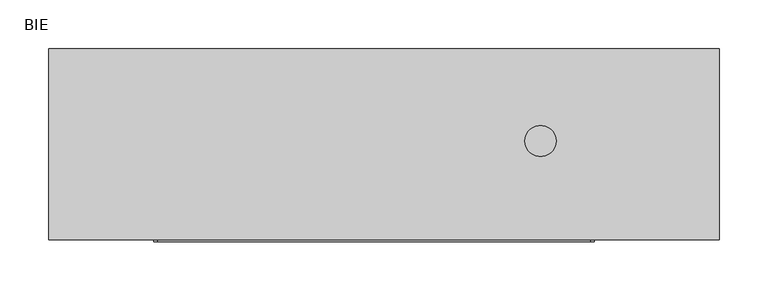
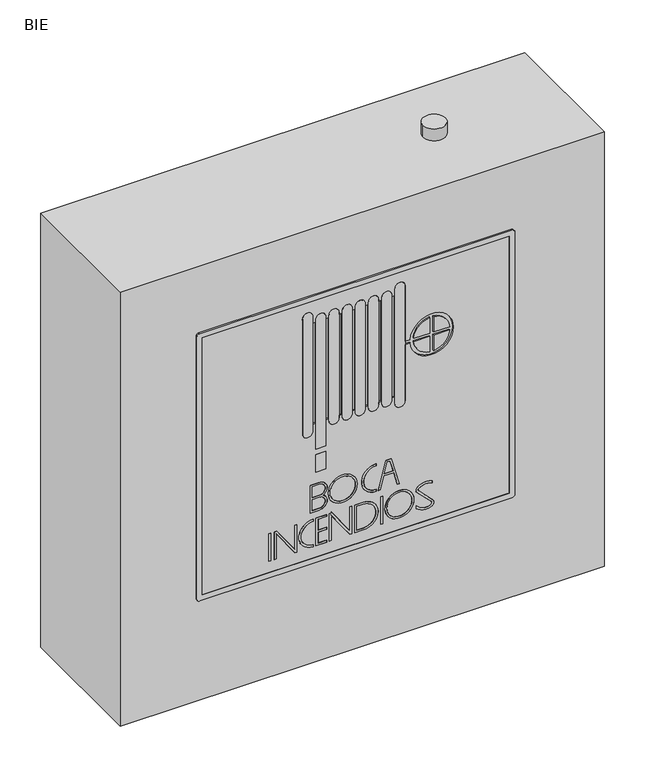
"""IFC4 building model written with IfcOpenShell, lengths in millimetres: proxy geometry, ZYR_12.01.03 BIE : BIE."""

from ifc_helpers import new_model, si_unit, point, frame, frame_2d, origin, place, context, project, spatial, polyline, circle_curve, trimmed, segment, composite_curve, outline, extrude, source, transform, mapped, element, save


def bie_1a3f8c17(model_context):
    return source(origin(), model_context, "Body", "SweptSolid", [
        extrude(outline(composite_curve([segment(polyline([(1550.2678612, 210.6585928), (1550.2678612, -231.3316125)]), True, "CONTINUOUS"), segment(trimmed(circle_curve(frame_2d((1546.2678612, -231.3316125)), 4.0), [point((1550.2678612, -231.3316125))], [point((1546.2678612, -235.3316125))], False, "CARTESIAN"), True, "CONTINUOUS"), segment(polyline([(1546.2678612, -235.3316125), (1154.0, -235.3316125)]), True, "CONTINUOUS"), segment(trimmed(circle_curve(frame_2d((1154.0, -231.3316125)), 4.0), [point((1154.0, -235.3316125))], [point((1150.0, -231.3316125))], False, "CARTESIAN"), True, "CONTINUOUS"), segment(polyline([(1150.0, -231.3316125), (1150.0, 210.6585928)]), True, "CONTINUOUS"), segment(trimmed(circle_curve(frame_2d((1154.0, 210.6585928)), 4.0), [point((1150.0, 210.6585928))], [point((1154.0, 214.6585928))], False, "CARTESIAN"), True, "CONTINUOUS"), segment(polyline([(1154.0, 214.6585928), (1546.2678612, 214.6585928)]), True, "CONTINUOUS"), segment(trimmed(circle_curve(frame_2d((1546.2678612, 210.6585928)), 4.0), [point((1546.2678612, 214.6585928))], [point((1550.2678612, 210.6585928))], False, "CARTESIAN"), True, "CONTINUOUS")], self_intersect=False), holes=[polyline([(1158.0, -227.3316125), (1542.2678612, -227.3316125), (1542.2678612, 206.6585928), (1158.0, 206.6585928), (1158.0, -227.3316125)])]), frame((0.0, -197.0, 0.0), z_axis=(0.0, 1.0, 0.0), x_axis=(0.0, 0.0, 1.0)), (0.0, 0.0, 1.0), 2.0),
        extrude(outline(composite_curve([segment(polyline([(1520.3049592, -85.6553464), (1348.1310462, -85.6553464)]), True, "CONTINUOUS"), segment(trimmed(circle_curve(frame_2d((1348.1310462, -78.4814333)), 7.173913), [point((1348.1310462, -85.6553464))], [point((1348.1310462, -71.3075203))], False, "CARTESIAN"), True, "CONTINUOUS"), segment(polyline([(1348.1310462, -71.3075203), (1520.3049592, -71.3075203)]), True, "CONTINUOUS"), segment(trimmed(circle_curve(frame_2d((1520.3049592, -78.4814333)), 7.173913), [point((1520.3049592, -71.3075203))], [point((1520.3049592, -85.6553464))], False, "CARTESIAN"), True, "CONTINUOUS")], self_intersect=False)), frame((0.0, -197.0, 0.0), z_axis=(0.0, 1.0, 0.0), x_axis=(0.0, 0.0, 1.0)), (0.0, 0.0, 1.0), 2.0),
        extrude(outline(composite_curve([segment(polyline([(1520.3049592, 45.0549224), (1348.1310462, 45.0549224)]), True, "CONTINUOUS"), segment(trimmed(circle_curve(frame_2d((1348.1310462, 52.2288354)), 7.173913), [point((1348.1310462, 45.0549224))], [point((1348.1310462, 59.4027485))], False, "CARTESIAN"), True, "CONTINUOUS"), segment(polyline([(1348.1310462, 59.4027485), (1520.3049592, 59.4027485)]), True, "CONTINUOUS"), segment(trimmed(circle_curve(frame_2d((1520.3049592, 52.2288354)), 7.173913), [point((1520.3049592, 59.4027485))], [point((1520.3049592, 45.0549224))], False, "CARTESIAN"), True, "CONTINUOUS")], self_intersect=False)), frame((0.0, -197.0, 0.0), z_axis=(0.0, 1.0, 0.0), x_axis=(0.0, 0.0, 1.0)), (0.0, 0.0, 1.0), 2.0),
        extrude(outline(composite_curve([segment(polyline([(1513.1310462, -67.0033717), (1319.435394, -67.0033717), (1319.435394, -52.6555457), (1513.1310462, -52.6555457)]), True, "CONTINUOUS"), segment(trimmed(circle_curve(frame_2d((1513.1310462, -59.8294587)), 7.173913), [point((1513.1310462, -52.6555457))], [point((1513.1310462, -67.0033717))], False, "CARTESIAN"), True, "CONTINUOUS")], self_intersect=False)), frame((0.0, -197.0, 0.0), z_axis=(0.0, 1.0, 0.0), x_axis=(0.0, 0.0, 1.0)), (0.0, 0.0, 1.0), 2.0),
        extrude(outline(composite_curve([segment(polyline([(1513.1310462, -48.3513971), (1355.3049592, -48.3513971)]), True, "CONTINUOUS"), segment(trimmed(circle_curve(frame_2d((1355.3049592, -41.1774841)), 7.173913), [point((1355.3049592, -48.3513971))], [point((1355.3049592, -34.003571))], False, "CARTESIAN"), True, "CONTINUOUS"), segment(polyline([(1355.3049592, -34.003571), (1513.1310462, -34.003571)]), True, "CONTINUOUS"), segment(trimmed(circle_curve(frame_2d((1513.1310462, -41.1774841)), 7.173913), [point((1513.1310462, -34.003571))], [point((1513.1310462, -48.3513971))], False, "CARTESIAN"), True, "CONTINUOUS")], self_intersect=False)), frame((0.0, -197.0, 0.0), z_axis=(0.0, 1.0, 0.0), x_axis=(0.0, 0.0, 1.0)), (0.0, 0.0, 1.0), 2.0),
        extrude(outline(composite_curve([segment(polyline([(1513.1310462, -29.6994224), (1355.3049592, -29.6994224)]), True, "CONTINUOUS"), segment(trimmed(circle_curve(frame_2d((1355.3049592, -22.5255094)), 7.173913), [point((1355.3049592, -29.6994224))], [point((1355.3049592, -15.3515964))], False, "CARTESIAN"), True, "CONTINUOUS"), segment(polyline([(1355.3049592, -15.3515964), (1513.1310462, -15.3515964)]), True, "CONTINUOUS"), segment(trimmed(circle_curve(frame_2d((1513.1310462, -22.5255094)), 7.173913), [point((1513.1310462, -15.3515964))], [point((1513.1310462, -29.6994224))], False, "CARTESIAN"), True, "CONTINUOUS")], self_intersect=False)), frame((0.0, -197.0, 0.0), z_axis=(0.0, 1.0, 0.0), x_axis=(0.0, 0.0, 1.0)), (0.0, 0.0, 1.0), 2.0),
        extrude(outline(composite_curve([segment(polyline([(1513.1310462, -11.0474478), (1355.3049592, -11.0474478)]), True, "CONTINUOUS"), segment(trimmed(circle_curve(frame_2d((1355.3049592, -3.8735348)), 7.173913), [point((1355.3049592, -11.0474478))], [point((1355.3049592, 3.3003783))], False, "CARTESIAN"), True, "CONTINUOUS"), segment(polyline([(1355.3049592, 3.3003783), (1513.1310462, 3.3003783)]), True, "CONTINUOUS"), segment(trimmed(circle_curve(frame_2d((1513.1310462, -3.8735348)), 7.173913), [point((1513.1310462, 3.3003783))], [point((1513.1310462, -11.0474478))], False, "CARTESIAN"), True, "CONTINUOUS")], self_intersect=False)), frame((0.0, -197.0, 0.0), z_axis=(0.0, 1.0, 0.0), x_axis=(0.0, 0.0, 1.0)), (0.0, 0.0, 1.0), 2.0),
        extrude(outline(composite_curve([segment(polyline([(1513.1310462, 7.6045268), (1355.3049592, 7.6045268)]), True, "CONTINUOUS"), segment(trimmed(circle_curve(frame_2d((1355.3049592, 14.7784399)), 7.173913), [point((1355.3049592, 7.6045268))], [point((1355.3049592, 21.9523529))], False, "CARTESIAN"), True, "CONTINUOUS"), segment(polyline([(1355.3049592, 21.9523529), (1513.1310462, 21.9523529)]), True, "CONTINUOUS"), segment(trimmed(circle_curve(frame_2d((1513.1310462, 14.7784399)), 7.173913), [point((1513.1310462, 21.9523529))], [point((1513.1310462, 7.6045268))], False, "CARTESIAN"), True, "CONTINUOUS")], self_intersect=False)), frame((0.0, -197.0, 0.0), z_axis=(0.0, 1.0, 0.0), x_axis=(0.0, 0.0, 1.0)), (0.0, 0.0, 1.0), 2.0),
        extrude(outline(polyline([(-52.6555457, -197.0), (-67.0033717, -197.0), (-67.0033717, -195.0), (-52.6555457, -195.0), (-52.6555457, -197.0)])), frame((0.0, 0.0, 1285.2064172), z_axis=(0.0, 0.0, 1.0), x_axis=(1.0, 0.0, 0.0)), (0.0, 0.0, 1.0), 26.1646963),
        extrude(outline(composite_curve([segment(polyline([(1267.8806708, -74.833742), (1226.7079846, -74.833742), (1226.7079846, -61.9209267)]), True, "CONTINUOUS"), segment(trimmed(circle_curve(frame_2d((1237.6860589, -61.9209267)), 10.9780742), [point((1226.7079846, -61.9209267))], [point((1247.2943277, -56.6106269))], False, "CARTESIAN"), True, "CONTINUOUS"), segment(trimmed(circle_curve(frame_2d((1256.9025965, -61.9209267)), 10.9780742), [point((1247.2943277, -56.6106269))], [point((1267.8806708, -61.9209267))], False, "CARTESIAN"), True, "CONTINUOUS"), segment(polyline([(1267.8806708, -61.9209267), (1267.8806708, -74.833742)]), True, "CONTINUOUS")], self_intersect=False), holes=[composite_curve([segment(polyline([(1248.7339321, -71.9545332), (1265.0712609, -71.9545332), (1265.0712609, -61.9209267)]), True, "CONTINUOUS"), segment(trimmed(circle_curve(frame_2d((1256.9025965, -61.9209267)), 8.1686644), [point((1265.0712609, -61.9209267))], [point((1248.7339321, -61.9209267))], True, "CARTESIAN"), True, "CONTINUOUS"), segment(polyline([(1248.7339321, -61.9209267), (1248.7339321, -71.9545332)]), True, "CONTINUOUS")], self_intersect=False), composite_curve([segment(polyline([(1229.5173945, -61.9209267), (1229.5173945, -71.9545332), (1245.8547233, -71.9545332), (1245.8547233, -61.9209267)]), True, "CONTINUOUS"), segment(trimmed(circle_curve(frame_2d((1237.6860589, -61.9209267)), 8.1686644), [point((1245.8547233, -61.9209267))], [point((1229.5173945, -61.9209267))], True, "CARTESIAN"), True, "CONTINUOUS")], self_intersect=False)]), frame((0.0, -197.0, 0.0), z_axis=(0.0, 1.0, 0.0), x_axis=(0.0, 0.0, 1.0)), (0.0, 0.0, 1.0), 2.0),
        extrude(outline(composite_curve([segment(trimmed(circle_curve(frame_2d((1247.2943277, -28.8100253)), 20.5863431), [point((1247.2943277, -49.3963683))], [point((1247.2943277, -8.2236822))], False, "CARTESIAN"), True, "CONTINUOUS"), segment(trimmed(circle_curve(frame_2d((1247.2943277, -28.8100253)), 20.5863431), [point((1247.2943277, -8.2236822))], [point((1247.2943277, -49.3963683))], False, "CARTESIAN"), True, "CONTINUOUS")], self_intersect=False), holes=[composite_curve([segment(trimmed(circle_curve(frame_2d((1247.2943277, -28.8100253)), 17.7769332), [point((1247.2943277, -46.5869585))], [point((1247.2943277, -11.033092))], True, "CARTESIAN"), True, "CONTINUOUS"), segment(trimmed(circle_curve(frame_2d((1247.2943277, -28.8100253)), 17.7769332), [point((1247.2943277, -11.033092))], [point((1247.2943277, -46.5869585))], True, "CARTESIAN"), True, "CONTINUOUS")], self_intersect=False)]), frame((0.0, -197.0, 0.0), z_axis=(0.0, 1.0, 0.0), x_axis=(0.0, 0.0, 1.0)), (0.0, 0.0, 1.0), 2.0),
        extrude(outline(composite_curve([segment(polyline([(1226.7079846, 18.3479252), (1229.5173945, 18.3479252)]), True, "CONTINUOUS"), segment(trimmed(circle_curve(frame_2d((1247.2943277, 18.3479252)), 17.7769332), [point((1229.5173945, 18.3479252))], [point((1265.0712609, 18.3479252))], True, "CARTESIAN"), True, "CONTINUOUS"), segment(polyline([(1265.0712609, 18.3479252), (1267.8806708, 18.3479252)]), True, "CONTINUOUS"), segment(trimmed(circle_curve(frame_2d((1247.2943277, 18.3479252)), 20.5863431), [point((1267.8806708, 18.3479252))], [point((1226.7079846, 18.3479252))], False, "CARTESIAN"), True, "CONTINUOUS")], self_intersect=False)), frame((0.0, -197.0, 0.0), z_axis=(0.0, 1.0, 0.0), x_axis=(0.0, 0.0, 1.0)), (0.0, 0.0, 1.0), 2.0),
        extrude(outline(polyline([(1267.8806708, 32.3925847), (1226.7079846, 21.3603967), (1226.7079846, 24.2689118), (1245.8896228, 29.4086163), (1245.8896228, 43.1525983), (1226.7079846, 48.2923027), (1226.7079846, 51.2008178), (1267.8806708, 40.1686298), (1267.8806708, 32.3925847)]), holes=[polyline([(1265.0712609, 38.0128938), (1248.6990326, 42.3998192), (1248.6990326, 30.1613954), (1265.0712609, 34.5483207), (1265.0712609, 38.0128938)])]), frame((0.0, -197.0, 0.0), z_axis=(0.0, 1.0, 0.0), x_axis=(0.0, 0.0, 1.0)), (0.0, 0.0, 1.0), 2.0),
        extrude(outline(polyline([(-130.6511312, -197.0), (-133.53034, -197.0), (-133.53034, -195.0), (-130.6511312, -195.0), (-130.6511312, -197.0)])), frame((0.0, 0.0, 1174.9694614), z_axis=(0.0, 0.0, 1.0), x_axis=(1.0, 0.0, 0.0)), (0.0, 0.0, 1.0), 41.1726861),
        extrude(outline(polyline([(1216.1421475, -126.0051351), (1174.9694614, -126.0051351), (1174.9694614, -123.1259263), (1212.4841752, -123.1259263), (1174.9694614, -96.8578409), (1174.9694614, -94.0284675), (1216.1421475, -94.0284675), (1216.1421475, -96.9076763), (1180.0603811, -96.9076763), (1216.1421475, -122.1724011), (1216.1421475, -126.0051351)])), frame((0.0, -197.0, 0.0), z_axis=(0.0, 1.0, 0.0), x_axis=(0.0, 0.0, 1.0)), (0.0, 0.0, 1.0), 2.0),
        extrude(outline(composite_curve([segment(polyline([(1174.9694614, -70.3591379), (1177.7788712, -70.3591379)]), True, "CONTINUOUS"), segment(trimmed(circle_curve(frame_2d((1195.5558044, -70.3591379)), 17.7769332), [point((1177.7788712, -70.3591379))], [point((1213.3327377, -70.3591379))], True, "CARTESIAN"), True, "CONTINUOUS"), segment(polyline([(1213.3327377, -70.3591379), (1216.1421475, -70.3591379)]), True, "CONTINUOUS"), segment(trimmed(circle_curve(frame_2d((1195.5558044, -70.3591379)), 20.5863431), [point((1216.1421475, -70.3591379))], [point((1174.9694614, -70.3591379))], False, "CARTESIAN"), True, "CONTINUOUS")], self_intersect=False)), frame((0.0, -197.0, 0.0), z_axis=(0.0, 1.0, 0.0), x_axis=(0.0, 0.0, 1.0)), (0.0, 0.0, 1.0), 2.0),
        extrude(outline(polyline([(1216.4697626, -66.7010697), (1175.2970765, -66.7010697), (1175.2970765, -51.7815331), (1178.1064863, -51.7815331), (1178.1064863, -63.8218609), (1194.4438151, -63.8218609), (1194.4438151, -51.7815331), (1197.323024, -51.7815331), (1197.323024, -63.8218609), (1213.6603528, -63.8218609), (1213.6603528, -51.7815331), (1216.4697626, -51.7815331), (1216.4697626, -66.7010697)])), frame((0.0, -197.0, 0.0), z_axis=(0.0, 1.0, 0.0), x_axis=(0.0, 0.0, 1.0)), (0.0, 0.0, 1.0), 2.0),
        extrude(outline(polyline([(1216.4697626, -47.7430045), (1175.2970765, -47.7430045), (1175.2970765, -44.8637957), (1212.4841752, -44.8637957), (1175.2970765, -18.8251088), (1175.2970765, -15.7663368), (1216.4697626, -15.7663368), (1216.4697626, -18.6455457), (1180.0603811, -18.6455457), (1216.4697626, -44.139669), (1216.4697626, -47.7430045)])), frame((0.0, -197.0, 0.0), z_axis=(0.0, 1.0, 0.0), x_axis=(0.0, 0.0, 1.0)), (0.0, 0.0, 1.0), 2.0),
        extrude(outline(composite_curve([segment(polyline([(1216.4697626, -11.9120801), (1175.2970765, -11.9120801), (1175.2970765, 0.5391364)]), True, "CONTINUOUS"), segment(trimmed(circle_curve(frame_2d((1195.8834195, 0.5391364)), 20.5863431), [point((1175.2970765, 0.5391364))], [point((1216.4697626, 0.5391364))], False, "CARTESIAN"), True, "CONTINUOUS"), segment(polyline([(1216.4697626, 0.5391364), (1216.4697626, -11.9120801)]), True, "CONTINUOUS")], self_intersect=False), holes=[composite_curve([segment(polyline([(1178.1064863, -9.0328713), (1213.6603528, -9.0328713), (1213.6603528, 0.1756746)]), True, "CONTINUOUS"), segment(trimmed(circle_curve(frame_2d((1195.8834195, 0.1756746)), 17.7769332), [point((1213.6603528, 0.1756746))], [point((1178.1064863, 0.1756746))], True, "CARTESIAN"), True, "CONTINUOUS"), segment(polyline([(1178.1064863, 0.1756746), (1178.1064863, -9.0328713)]), True, "CONTINUOUS")], self_intersect=False)]), frame((0.0, -197.0, 0.0), z_axis=(0.0, 1.0, 0.0), x_axis=(0.0, 0.0, 1.0)), (0.0, 0.0, 1.0), 2.0),
        extrude(outline(composite_curve([segment(trimmed(circle_curve(frame_2d((1195.8834195, 51.2996408)), 20.5863431), [point((1195.8834195, 30.7132977))], [point((1195.8834195, 71.8859838))], False, "CARTESIAN"), True, "CONTINUOUS"), segment(trimmed(circle_curve(frame_2d((1195.8834195, 51.2996408)), 20.5863431), [point((1195.8834195, 71.8859838))], [point((1195.8834195, 30.7132977))], False, "CARTESIAN"), True, "CONTINUOUS")], self_intersect=False), holes=[composite_curve([segment(trimmed(circle_curve(frame_2d((1195.8834195, 51.2996408)), 17.7769332), [point((1195.8834195, 33.5227075))], [point((1195.8834195, 69.076574))], True, "CARTESIAN"), True, "CONTINUOUS"), segment(trimmed(circle_curve(frame_2d((1195.8834195, 51.2996408)), 17.7769332), [point((1195.8834195, 69.076574))], [point((1195.8834195, 33.5227075))], True, "CARTESIAN"), True, "CONTINUOUS")], self_intersect=False)]), frame((0.0, -197.0, 0.0), z_axis=(0.0, 1.0, 0.0), x_axis=(0.0, 0.0, 1.0)), (0.0, 0.0, 1.0), 2.0),
        extrude(outline(polyline([(27.8798514, -197.0), (25.0006426, -197.0), (25.0006426, -195.0), (27.8798514, -195.0), (27.8798514, -197.0)])), frame((0.0, 0.0, 1174.9694614), z_axis=(0.0, 0.0, 1.0), x_axis=(1.0, 0.0, 0.0)), (0.0, 0.0, 1.0), 41.1726861),
        extrude(outline(composite_curve([segment(trimmed(circle_curve(frame_2d((1195.8834195, 89.4273454)), 17.7769332), [point((1209.9165529, 78.514485))], [point((1211.6473698, 97.6442321))], True, "CARTESIAN"), True, "CONTINUOUS"), segment(polyline([(1211.6473698, 97.6442321), (1214.7588081, 97.6442321)]), True, "CONTINUOUS"), segment(trimmed(circle_curve(frame_2d((1195.8834195, 89.4273454)), 20.5863431), [point((1214.7588081, 97.6442321))], [point((1211.9500805, 76.5564509))], False, "CARTESIAN"), True, "CONTINUOUS"), segment(trimmed(circle_curve(frame_2d((1208.0998015, 80.8216275)), 5.7459881), [point((1211.9500805, 76.5564509))], [point((1204.3945803, 76.4298494))], False, "CARTESIAN"), True, "CONTINUOUS"), segment(polyline([(1204.3945803, 76.4298494), (1184.4167616, 96.4076681)]), True, "CONTINUOUS"), segment(trimmed(circle_curve(frame_2d((1182.2554389, 93.6372106)), 3.5137943), [point((1184.4167616, 96.4076681))], [point((1178.9128445, 94.7206373))], True, "CARTESIAN"), True, "CONTINUOUS"), segment(trimmed(circle_curve(frame_2d((1195.8834195, 89.4273454)), 17.7769332), [point((1178.9128445, 94.7206373))], [point((1185.0673732, 75.3194576))], True, "CARTESIAN"), True, "CONTINUOUS"), segment(polyline([(1185.0673732, 75.3194576), (1180.8912542, 75.3194576)]), True, "CONTINUOUS"), segment(trimmed(circle_curve(frame_2d((1195.8834195, 89.4273454)), 20.5863431), [point((1180.8912542, 75.3194576))], [point((1176.2350049, 95.5704166))], False, "CARTESIAN"), True, "CONTINUOUS"), segment(trimmed(circle_curve(frame_2d((1182.2554389, 93.6372106)), 6.3232041), [point((1176.2350049, 95.5704166))], [point((1186.2989708, 98.4985643))], False, "CARTESIAN"), True, "CONTINUOUS"), segment(polyline([(1186.2989708, 98.4985643), (1206.2830501, 78.514485)]), True, "CONTINUOUS"), segment(trimmed(circle_curve(frame_2d((1208.0998015, 80.8216275)), 2.9365783), [point((1206.2830501, 78.514485))], [point((1209.9165529, 78.514485))], True, "CARTESIAN"), True, "CONTINUOUS")], self_intersect=False)), frame((0.0, -197.0, 0.0), z_axis=(0.0, 1.0, 0.0), x_axis=(0.0, 0.0, 1.0)), (0.0, 0.0, 1.0), 2.0),
        extrude(outline(composite_curve([segment(polyline([(1513.1310462, 26.2565015), (1355.3049592, 26.2565015)]), True, "CONTINUOUS"), segment(trimmed(circle_curve(frame_2d((1355.3049592, 33.4304145)), 7.173913), [point((1355.3049592, 26.2565015))], [point((1355.3049592, 40.6043276))], False, "CARTESIAN"), True, "CONTINUOUS"), segment(polyline([(1355.3049592, 40.6043276), (1513.1310462, 40.6043276)]), True, "CONTINUOUS"), segment(trimmed(circle_curve(frame_2d((1513.1310462, 33.4304145)), 7.173913), [point((1513.1310462, 40.6043276))], [point((1513.1310462, 26.2565015))], False, "CARTESIAN"), True, "CONTINUOUS")], self_intersect=False)), frame((0.0, -197.0, 0.0), z_axis=(0.0, 1.0, 0.0), x_axis=(0.0, 0.0, 1.0)), (0.0, 0.0, 1.0), 2.0),
        extrude(outline(polyline([(1158.0, -227.3316125), (1158.0, 206.6585928), (1542.2678612, 206.6585928), (1542.2678612, -227.3316125), (1158.0, -227.3316125)]), holes=[composite_curve([segment(polyline([(1358.7146328, -29.6994224), (1358.7146328, -34.003571), (1355.4225503, -34.003571)]), True, "CONTINUOUS"), segment(trimmed(circle_curve(frame_2d((1355.4225503, -41.1774841)), 7.173913), [point((1355.4225503, -34.003571))], [point((1355.4225503, -48.3513971))], True, "CARTESIAN"), True, "CONTINUOUS"), segment(polyline([(1355.4225503, -48.3513971), (1358.7146328, -48.3513971), (1358.7146328, -52.6555457), (1319.435394, -52.6555457), (1319.435394, -67.0033717), (1358.7146328, -67.0033717), (1358.7146328, -71.3075203), (1348.1310462, -71.3075203)]), True, "CONTINUOUS"), segment(trimmed(circle_curve(frame_2d((1348.1310462, -78.4814333)), 7.173913), [point((1348.1310462, -71.3075203))], [point((1348.1310462, -85.6553464))], True, "CARTESIAN"), True, "CONTINUOUS"), segment(polyline([(1348.1310462, -85.6553464), (1518.1436223, -85.6553464)]), True, "CONTINUOUS"), segment(trimmed(circle_curve(frame_2d((1520.3787609, -78.8385154)), 7.173913), [point((1518.1436223, -85.6553464))], [point((1520.3787609, -71.6646024))], True, "CARTESIAN"), True, "CONTINUOUS"), segment(polyline([(1520.3787609, -71.6646024), (1509.8389636, -71.6646024), (1509.8389636, -67.0033717), (1513.2486373, -67.0033717)]), True, "CONTINUOUS"), segment(trimmed(circle_curve(frame_2d((1513.2486373, -59.8294587)), 7.173913), [point((1513.2486373, -67.0033717))], [point((1513.2486373, -52.6555457))], True, "CARTESIAN"), True, "CONTINUOUS"), segment(polyline([(1513.2486373, -52.6555457), (1509.8389636, -52.6555457), (1509.8389636, -48.3513971), (1513.2486373, -48.3513971)]), True, "CONTINUOUS"), segment(trimmed(circle_curve(frame_2d((1513.2486373, -41.1774841)), 7.173913), [point((1513.2486373, -48.3513971))], [point((1513.2486373, -34.003571))], True, "CARTESIAN"), True, "CONTINUOUS"), segment(polyline([(1513.2486373, -34.003571), (1509.8389636, -34.003571), (1509.8389636, -29.6994224), (1513.1310462, -29.6994224)]), True, "CONTINUOUS"), segment(trimmed(circle_curve(frame_2d((1513.1310462, -22.5255094)), 7.173913), [point((1513.1310462, -29.6994224))], [point((1513.1310462, -15.3515964))], True, "CARTESIAN"), True, "CONTINUOUS"), segment(polyline([(1513.1310462, -15.3515964), (1509.8389636, -15.3515964), (1509.8389636, -11.0474478), (1513.2486373, -11.0474478)]), True, "CONTINUOUS"), segment(trimmed(circle_curve(frame_2d((1513.2486373, -3.8735348)), 7.173913), [point((1513.2486373, -11.0474478))], [point((1513.2486373, 3.3003783))], True, "CARTESIAN"), True, "CONTINUOUS"), segment(polyline([(1513.2486373, 3.3003783), (1509.8389636, 3.3003783), (1509.8389636, 7.6045268), (1513.2486373, 7.6045268)]), True, "CONTINUOUS"), segment(trimmed(circle_curve(frame_2d((1513.2486373, 14.7784399)), 7.173913), [point((1513.2486373, 7.6045268))], [point((1513.2486373, 21.9523529))], True, "CARTESIAN"), True, "CONTINUOUS"), segment(polyline([(1513.2486373, 21.9523529), (1509.8389636, 21.9523529), (1509.8389636, 26.2565015), (1513.1310462, 26.2565015)]), True, "CONTINUOUS"), segment(trimmed(circle_curve(frame_2d((1513.1310462, 33.4304145)), 7.173913), [point((1513.1310462, 26.2565015))], [point((1513.1310462, 40.6043276))], True, "CARTESIAN"), True, "CONTINUOUS"), segment(polyline([(1513.1310462, 40.6043276), (1509.8389636, 40.6043276), (1509.8389636, 45.0549224), (1520.3787609, 45.0549224)]), True, "CONTINUOUS"), segment(trimmed(circle_curve(frame_2d((1520.3787609, 52.2288354)), 7.173913), [point((1520.3787609, 45.0549224))], [point((1520.3787609, 59.4027485))], True, "CARTESIAN"), True, "CONTINUOUS"), segment(polyline([(1520.3787609, 59.4027485), (1436.8767982, 59.4027485), (1436.8767982, 66.6453916)]), True, "CONTINUOUS"), segment(trimmed(circle_curve(frame_2d((1434.3267982, 97.1389564)), 30.6), [point((1436.8767982, 66.6453916))], [point((1431.7767982, 66.6453916))], True, "CARTESIAN"), True, "CONTINUOUS"), segment(polyline([(1431.7767982, 66.6453916), (1431.7767982, 59.4027485), (1348.1748356, 59.4027485)]), True, "CONTINUOUS"), segment(trimmed(circle_curve(frame_2d((1348.1748356, 52.2288354)), 7.173913), [point((1348.1748356, 59.4027485))], [point((1348.1748356, 45.0549224))], True, "CARTESIAN"), True, "CONTINUOUS"), segment(polyline([(1348.1748356, 45.0549224), (1358.7146328, 45.0549224), (1358.7146328, 40.6043276), (1355.3049592, 40.6043276)]), True, "CONTINUOUS"), segment(trimmed(circle_curve(frame_2d((1355.3049592, 33.4304145)), 7.173913), [point((1355.3049592, 40.6043276))], [point((1355.3049592, 26.2565015))], True, "CARTESIAN"), True, "CONTINUOUS"), segment(polyline([(1355.3049592, 26.2565015), (1358.7146328, 26.2565015), (1358.7146328, 21.9523529), (1355.4225503, 21.9523529)]), True, "CONTINUOUS"), segment(trimmed(circle_curve(frame_2d((1355.4225503, 14.7784399)), 7.173913), [point((1355.4225503, 21.9523529))], [point((1355.4225503, 7.6045268))], True, "CARTESIAN"), True, "CONTINUOUS"), segment(polyline([(1355.4225503, 7.6045268), (1358.7146328, 7.6045268), (1358.7146328, 3.3003783), (1355.3049592, 3.3003783)]), True, "CONTINUOUS"), segment(trimmed(circle_curve(frame_2d((1355.3049592, -3.8735348)), 7.173913), [point((1355.3049592, 3.3003783))], [point((1355.3049592, -11.0474478))], True, "CARTESIAN"), True, "CONTINUOUS"), segment(polyline([(1355.3049592, -11.0474478), (1358.7146328, -11.0474478), (1358.7146328, -15.3515964), (1355.3049592, -15.3515964)]), True, "CONTINUOUS"), segment(trimmed(circle_curve(frame_2d((1355.3049592, -22.5255094)), 7.173913), [point((1355.3049592, -15.3515964))], [point((1355.3049592, -29.6994224))], True, "CARTESIAN"), True, "CONTINUOUS"), segment(polyline([(1355.3049592, -29.6994224), (1358.7146328, -29.6994224)]), True, "CONTINUOUS")], self_intersect=False), polyline([(1285.2064172, -67.0033717), (1311.3711134, -67.0033717), (1311.3711134, -52.6555457), (1285.2064172, -52.6555457), (1285.2064172, -67.0033717)]), polyline([(1267.8806708, 40.1686298), (1226.7079846, 51.2008178), (1226.7079846, 48.2923027), (1245.8896228, 43.1525983), (1245.8896228, 29.4086163), (1226.7079846, 24.2689118), (1226.7079846, 21.3603967), (1267.8806708, 32.3925847), (1267.8806708, 40.1686298)]), polyline([(1216.1421475, 27.8798514), (1174.9694614, 27.8798514), (1174.9694614, 25.0006426), (1216.1421475, 25.0006426), (1216.1421475, 27.8798514)]), composite_curve([segment(trimmed(circle_curve(frame_2d((1247.2943277, 18.3479252)), 20.5863431), [point((1226.7079846, 18.3479252))], [point((1267.8806708, 18.3479252))], True, "CARTESIAN"), True, "CONTINUOUS"), segment(polyline([(1267.8806708, 18.3479252), (1265.0712609, 18.3479252)]), True, "CONTINUOUS"), segment(trimmed(circle_curve(frame_2d((1247.2943277, 18.3479252)), 17.7769332), [point((1265.0712609, 18.3479252))], [point((1229.5173945, 18.3479252))], False, "CARTESIAN"), True, "CONTINUOUS"), segment(polyline([(1229.5173945, 18.3479252), (1226.7079846, 18.3479252)]), True, "CONTINUOUS")], self_intersect=False), polyline([(1216.1421475, -130.6511312), (1174.9694614, -130.6511312), (1174.9694614, -133.53034), (1216.1421475, -133.53034), (1216.1421475, -130.6511312)]), polyline([(1174.9694614, -126.0051351), (1216.1421475, -126.0051351), (1216.1421475, -122.1724011), (1180.0603811, -96.9076763), (1216.1421475, -96.9076763), (1216.1421475, -94.0284675), (1174.9694614, -94.0284675), (1174.9694614, -96.8578409), (1212.4841752, -123.1259263), (1174.9694614, -123.1259263), (1174.9694614, -126.0051351)]), polyline([(1197.323024, -63.8218609), (1197.323024, -51.7815331), (1194.4438151, -51.7815331), (1194.4438151, -63.8218609), (1178.1064863, -63.8218609), (1178.1064863, -51.7815331), (1175.2970765, -51.7815331), (1175.2970765, -66.7010697), (1216.4697626, -66.7010697), (1216.4697626, -51.7815331), (1213.6603528, -51.7815331), (1213.6603528, -63.8218609), (1197.323024, -63.8218609)]), polyline([(1175.2970765, -47.7430045), (1216.4697626, -47.7430045), (1216.4697626, -44.139669), (1180.0603811, -18.6455457), (1216.4697626, -18.6455457), (1216.4697626, -15.7663368), (1175.2970765, -15.7663368), (1175.2970765, -18.8251088), (1212.4841752, -44.8637957), (1175.2970765, -44.8637957), (1175.2970765, -47.7430045)]), composite_curve([segment(trimmed(circle_curve(frame_2d((1247.2943277, -28.8100253)), 20.5863431), [point((1247.2943277, -49.3963683))], [point((1247.2943277, -8.2236822))], True, "CARTESIAN"), True, "CONTINUOUS"), segment(trimmed(circle_curve(frame_2d((1247.2943277, -28.8100253)), 20.5863431), [point((1247.2943277, -8.2236822))], [point((1247.2943277, -49.3963683))], True, "CARTESIAN"), True, "CONTINUOUS")], self_intersect=False), composite_curve([segment(trimmed(circle_curve(frame_2d((1195.8834195, 51.2996408)), 20.5863431), [point((1195.8834195, 30.7132977))], [point((1195.8834195, 71.8859838))], True, "CARTESIAN"), True, "CONTINUOUS"), segment(trimmed(circle_curve(frame_2d((1195.8834195, 51.2996408)), 20.5863431), [point((1195.8834195, 71.8859838))], [point((1195.8834195, 30.7132977))], True, "CARTESIAN"), True, "CONTINUOUS")], self_intersect=False), composite_curve([segment(trimmed(circle_curve(frame_2d((1195.5558044, -70.3591379)), 20.5863431), [point((1174.9694614, -70.3591379))], [point((1216.1421475, -70.3591379))], True, "CARTESIAN"), True, "CONTINUOUS"), segment(polyline([(1216.1421475, -70.3591379), (1213.3327377, -70.3591379)]), True, "CONTINUOUS"), segment(trimmed(circle_curve(frame_2d((1195.5558044, -70.3591379)), 17.7769332), [point((1213.3327377, -70.3591379))], [point((1177.7788712, -70.3591379))], False, "CARTESIAN"), True, "CONTINUOUS"), segment(polyline([(1177.7788712, -70.3591379), (1174.9694614, -70.3591379)]), True, "CONTINUOUS")], self_intersect=False), composite_curve([segment(polyline([(1175.2970765, -11.9120801), (1216.4697626, -11.9120801), (1216.4697626, 0.5391364)]), True, "CONTINUOUS"), segment(trimmed(circle_curve(frame_2d((1195.8834195, 0.5391364)), 20.5863431), [point((1216.4697626, 0.5391364))], [point((1175.2970765, 0.5391364))], True, "CARTESIAN"), True, "CONTINUOUS"), segment(polyline([(1175.2970765, 0.5391364), (1175.2970765, -11.9120801)]), True, "CONTINUOUS")], self_intersect=False), composite_curve([segment(polyline([(1226.7079846, -74.833742), (1267.8806708, -74.833742), (1267.8806708, -62.1267209)]), True, "CONTINUOUS"), segment(trimmed(circle_curve(frame_2d((1256.9032307, -61.9223989)), 10.9793414), [point((1267.8806708, -62.1267209))], [point((1247.2943277, -56.6106269))], True, "CARTESIAN"), True, "CONTINUOUS"), segment(trimmed(circle_curve(frame_2d((1237.6853516, -61.9221258)), 10.9792734), [point((1247.2943277, -56.6106269))], [point((1226.7079846, -62.1267209))], True, "CARTESIAN"), True, "CONTINUOUS"), segment(polyline([(1226.7079846, -62.1267209), (1226.7079846, -74.833742)]), True, "CONTINUOUS")], self_intersect=False), composite_curve([segment(trimmed(circle_curve(frame_2d((1182.2391413, 93.6932251)), 6.2907473), [point((1186.2989708, 98.4985643))], [point((1176.2350049, 95.5704166))], True, "CARTESIAN"), True, "CONTINUOUS"), segment(trimmed(circle_curve(frame_2d((1195.8834195, 89.4273454)), 20.5863431), [point((1176.2350049, 95.5704166))], [point((1180.8912542, 75.3194576))], True, "CARTESIAN"), True, "CONTINUOUS"), segment(polyline([(1180.8912542, 75.3194576), (1185.0673732, 75.3194576)]), True, "CONTINUOUS"), segment(trimmed(circle_curve(frame_2d((1195.5669633, 89.2528431)), 17.4465074), [point((1185.0673732, 75.3194576))], [point((1179.2792366, 95.5050891))], False, "CARTESIAN"), True, "CONTINUOUS"), segment(trimmed(circle_curve(frame_2d((1182.1644152, 94.1553218)), 3.1852987), [point((1179.2792366, 95.5050891))], [point((1184.4167616, 96.4076681))], False, "CARTESIAN"), True, "CONTINUOUS"), segment(polyline([(1184.4167616, 96.4076681), (1204.2128499, 76.6115797)]), True, "CONTINUOUS"), segment(trimmed(circle_curve(frame_2d((1208.1094252, 80.5081551)), 5.5105897), [point((1204.2128499, 76.6115797))], [point((1211.9500805, 76.5564509))], True, "CARTESIAN"), True, "CONTINUOUS"), segment(trimmed(circle_curve(frame_2d((1195.8834195, 89.4273454)), 20.5863431), [point((1211.9500805, 76.5564509))], [point((1214.7588081, 97.6442321))], True, "CARTESIAN"), True, "CONTINUOUS"), segment(polyline([(1214.7588081, 97.6442321), (1211.6473698, 97.6442321)]), True, "CONTINUOUS"), segment(trimmed(circle_curve(frame_2d((1195.8834195, 89.4273454)), 17.7769332), [point((1211.6473698, 97.6442321))], [point((1209.9165529, 78.514485))], False, "CARTESIAN"), True, "CONTINUOUS"), segment(trimmed(circle_curve(frame_2d((1208.0998015, 80.8216275)), 2.9365783), [point((1209.9165529, 78.514485))], [point((1206.2830501, 78.514485))], False, "CARTESIAN"), True, "CONTINUOUS"), segment(polyline([(1206.2830501, 78.514485), (1186.2989708, 98.4985643)]), True, "CONTINUOUS")], self_intersect=False)]), frame((0.0, -197.0, 0.0), z_axis=(0.0, 1.0, 0.0), x_axis=(0.0, 0.0, 1.0)), (0.0, 0.0, 1.0), 2.0),
        extrude(outline(composite_curve([segment(trimmed(circle_curve(frame_2d((1434.3267982, 97.1389564)), 25.5), [point((1436.8767982, 122.5111361))], [point((1459.6989779, 99.6889564))], False, "CARTESIAN"), True, "CONTINUOUS"), segment(polyline([(1459.6989779, 99.6889564), (1436.8767982, 99.6889564), (1436.8767982, 122.5111361)]), True, "CONTINUOUS")], self_intersect=False)), frame((0.0, -197.0, 0.0), z_axis=(0.0, 1.0, 0.0), x_axis=(0.0, 0.0, 1.0)), (0.0, 0.0, 1.0), 2.0),
        extrude(outline(composite_curve([segment(trimmed(circle_curve(frame_2d((1434.3267982, 97.1389564)), 25.5), [point((1459.6989779, 94.5889564))], [point((1436.8767982, 71.7667768))], False, "CARTESIAN"), True, "CONTINUOUS"), segment(polyline([(1436.8767982, 71.7667768), (1436.8767982, 94.5889564), (1459.6989779, 94.5889564)]), True, "CONTINUOUS")], self_intersect=False)), frame((0.0, -197.0, 0.0), z_axis=(0.0, 1.0, 0.0), x_axis=(0.0, 0.0, 1.0)), (0.0, 0.0, 1.0), 2.0),
        extrude(outline(composite_curve([segment(polyline([(1431.7767982, 122.5111361), (1431.7767982, 99.6889564), (1408.9546186, 99.6889564)]), True, "CONTINUOUS"), segment(trimmed(circle_curve(frame_2d((1434.3267982, 97.1389564)), 25.5), [point((1408.9546186, 99.6889564))], [point((1431.7767982, 122.5111361))], False, "CARTESIAN"), True, "CONTINUOUS")], self_intersect=False)), frame((0.0, -197.0, 0.0), z_axis=(0.0, 1.0, 0.0), x_axis=(0.0, 0.0, 1.0)), (0.0, 0.0, 1.0), 2.0),
        extrude(outline(composite_curve([segment(polyline([(1408.9546186, 94.5889564), (1431.7767982, 94.5889564), (1431.7767982, 71.7667768)]), True, "CONTINUOUS"), segment(trimmed(circle_curve(frame_2d((1434.3267982, 97.1389564)), 25.5), [point((1431.7767982, 71.7667768))], [point((1408.9546186, 94.5889564))], False, "CARTESIAN"), True, "CONTINUOUS")], self_intersect=False)), frame((0.0, -197.0, 0.0), z_axis=(0.0, 1.0, 0.0), x_axis=(0.0, 0.0, 1.0)), (0.0, 0.0, 1.0), 2.0),
        extrude(outline(polyline([(1248.6990326, 42.3998192), (1265.0712609, 38.0128938), (1265.0712609, 34.5483207), (1248.6990326, 30.1613954), (1248.6990326, 42.3998192)])), frame((0.0, -197.0, 0.0), z_axis=(0.0, 1.0, 0.0), x_axis=(0.0, 0.0, 1.0)), (0.0, 0.0, 1.0), 2.0),
        extrude(outline(composite_curve([segment(trimmed(circle_curve(frame_2d((1247.2943277, -28.8100253)), 17.7769332), [point((1247.2943277, -46.5869585))], [point((1247.2943277, -11.033092))], False, "CARTESIAN"), True, "CONTINUOUS"), segment(trimmed(circle_curve(frame_2d((1247.2943277, -28.8100253)), 17.7769332), [point((1247.2943277, -11.033092))], [point((1247.2943277, -46.5869585))], False, "CARTESIAN"), True, "CONTINUOUS")], self_intersect=False)), frame((0.0, -197.0, 0.0), z_axis=(0.0, 1.0, 0.0), x_axis=(0.0, 0.0, 1.0)), (0.0, 0.0, 1.0), 2.0),
        extrude(outline(composite_curve([segment(trimmed(circle_curve(frame_2d((1195.8834195, 51.2996408)), 17.7769332), [point((1195.8834195, 33.5227075))], [point((1195.8834195, 69.076574))], False, "CARTESIAN"), True, "CONTINUOUS"), segment(trimmed(circle_curve(frame_2d((1195.8834195, 51.2996408)), 17.7769332), [point((1195.8834195, 69.076574))], [point((1195.8834195, 33.5227075))], False, "CARTESIAN"), True, "CONTINUOUS")], self_intersect=False)), frame((0.0, -197.0, 0.0), z_axis=(0.0, 1.0, 0.0), x_axis=(0.0, 0.0, 1.0)), (0.0, 0.0, 1.0), 2.0),
        extrude(outline(composite_curve([segment(polyline([(1178.1064863, -9.0328713), (1178.1064863, 0.1756746)]), True, "CONTINUOUS"), segment(trimmed(circle_curve(frame_2d((1195.8834195, 0.1756746)), 17.7769332), [point((1178.1064863, 0.1756746))], [point((1213.6603528, 0.1756746))], False, "CARTESIAN"), True, "CONTINUOUS"), segment(polyline([(1213.6603528, 0.1756746), (1213.6603528, -9.0328713), (1178.1064863, -9.0328713)]), True, "CONTINUOUS")], self_intersect=False)), frame((0.0, -197.0, 0.0), z_axis=(0.0, 1.0, 0.0), x_axis=(0.0, 0.0, 1.0)), (0.0, 0.0, 1.0), 2.0),
        extrude(outline(composite_curve([segment(polyline([(1248.7339321, -71.9545332), (1248.7339321, -61.9209267)]), True, "CONTINUOUS"), segment(trimmed(circle_curve(frame_2d((1256.9025965, -61.9209267)), 8.1686644), [point((1248.7339321, -61.9209267))], [point((1265.0712609, -61.9209267))], False, "CARTESIAN"), True, "CONTINUOUS"), segment(polyline([(1265.0712609, -61.9209267), (1265.0712609, -71.9545332), (1248.7339321, -71.9545332)]), True, "CONTINUOUS")], self_intersect=False)), frame((0.0, -197.0, 0.0), z_axis=(0.0, 1.0, 0.0), x_axis=(0.0, 0.0, 1.0)), (0.0, 0.0, 1.0), 2.0),
        extrude(outline(composite_curve([segment(polyline([(1245.8547233, -71.9545332), (1229.5173945, -71.9545332), (1229.5173945, -61.9209267)]), True, "CONTINUOUS"), segment(trimmed(circle_curve(frame_2d((1237.6860589, -61.9209267)), 8.1686644), [point((1229.5173945, -61.9209267))], [point((1245.8547233, -61.9209267))], False, "CARTESIAN"), True, "CONTINUOUS"), segment(polyline([(1245.8547233, -61.9209267), (1245.8547233, -71.9545332)]), True, "CONTINUOUS")], self_intersect=False)), frame((0.0, -197.0, 0.0), z_axis=(0.0, 1.0, 0.0), x_axis=(0.0, 0.0, 1.0)), (0.0, 0.0, 1.0), 2.0),
        extrude(outline(polyline([(342.5, 0.0), (342.5, -195.0), (-342.5, -195.0), (-342.5, 0.0), (342.5, 0.0)])), frame((0.0, 0.0, 1000.0), z_axis=(0.0, 0.0, 1.0), x_axis=(1.0, 0.0, 0.0)), (0.0, 0.0, 1.0), 650.0),
        extrude(outline(composite_curve([segment(trimmed(circle_curve(frame_2d((160.0, -94.0971318)), 15.9), [point((144.1, -94.0971318))], [point((175.9, -94.0971318))], False, "CARTESIAN"), True, "CONTINUOUS"), segment(trimmed(circle_curve(frame_2d((160.0, -94.0971318)), 15.9), [point((175.9, -94.0971318))], [point((144.1, -94.0971318))], False, "CARTESIAN"), True, "CONTINUOUS")], self_intersect=False)), frame((0.0, 0.0, 1650.0), z_axis=(0.0, 0.0, 1.0), x_axis=(1.0, 0.0, 0.0)), (0.0, 0.0, 1.0), 18.0),
    ])


if __name__ == "__main__":
    model = new_model("IFC4")
    model_context = context("Model", 3, world=origin())
    ifc_project = project(units=[si_unit("LENGTHUNIT", "METRE", prefix="MILLI")], contexts=[model_context])
    site = spatial("IfcSite", under=ifc_project)
    building = spatial("IfcBuilding", under=site)
    placement = place(None, origin())
    bie_shape = bie_1a3f8c17(model_context)
    element("IfcBuildingElementProxy", 1, Name="ZYR_12.01.03 BIE : BIE", ObjectType="ZYR_12.01.03 BIE : BIE", at=placement, inside=building, context=model_context, shape_type="MappedRepresentation", body=[
        mapped(bie_shape, transform((0.0, 0.0, 0.0), x_axis=(1.0, 0.0, 0.0), y_axis=(0.0, 1.0, 0.0), z_axis=(0.0, 0.0, 1.0))),
    ])
    save(model, "model.ifc")
